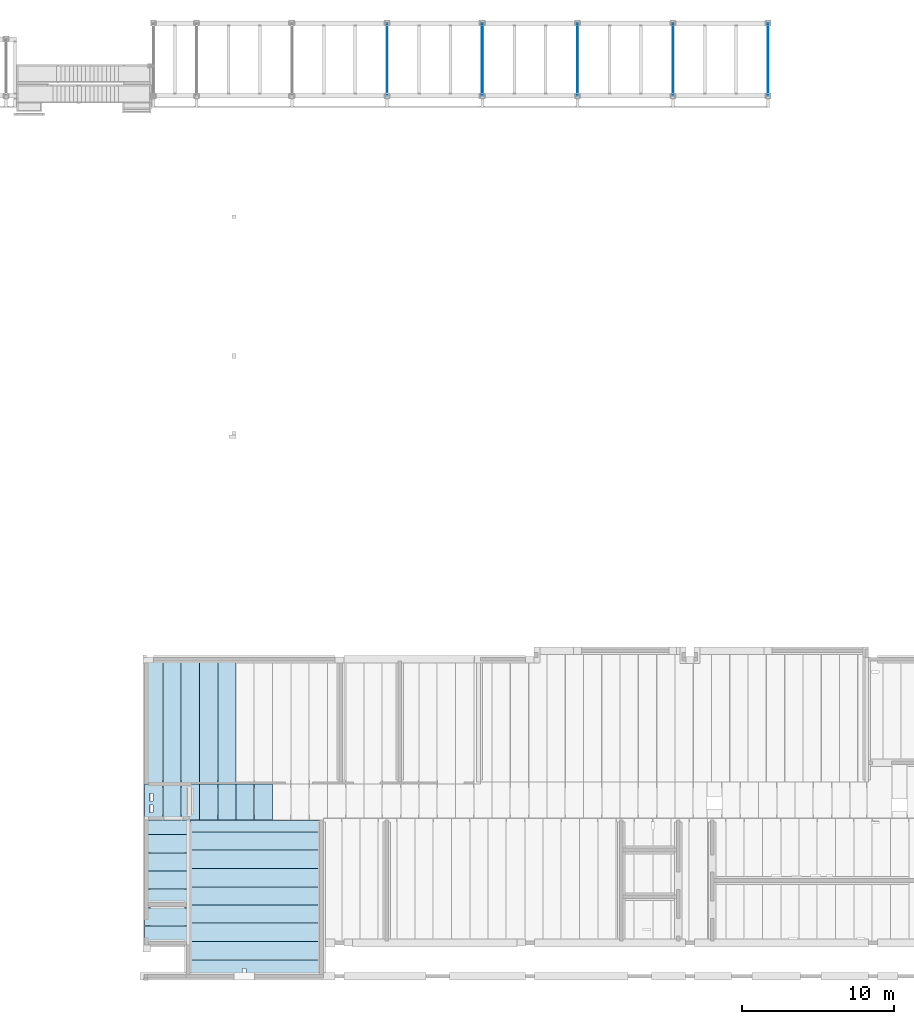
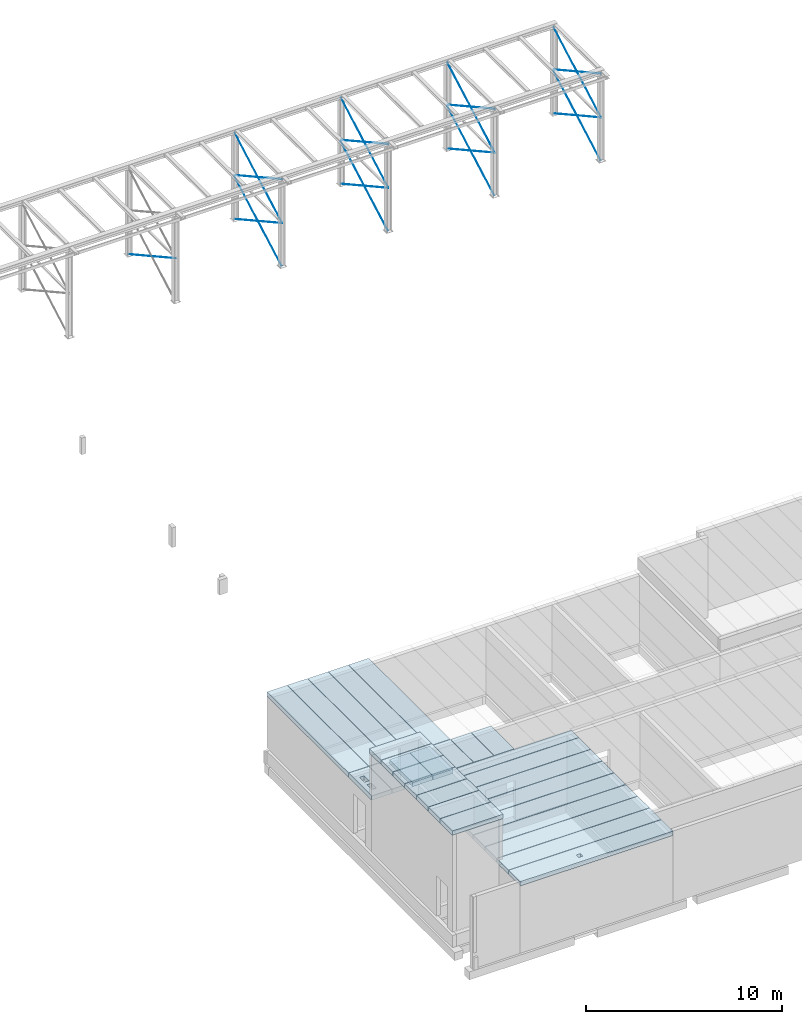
# One storey, part 8 of 24: 28 slabs, 17 members.
"""IFC2X3 building model written with IfcOpenShell, lengths in metres."""

from ifc_helpers import new_model, entity, si_unit, converted_unit, derived_unit, frame, frame_2d, origin, origin_with_axes, place, context, subcontext, project, spatial, polyline, rectangle, outline, extrude, faceted_brep, material, element, save


model = new_model("IFC2X3")

# Units and contexts
model_context = context("Model", 3, precision=1e-05, world=origin())
body_context = subcontext(model_context, "Body", "Model", "MODEL_VIEW")
ifc_project = project(units=[si_unit("LENGTHUNIT", "METRE"), si_unit("AREAUNIT", "SQUARE_METRE"), si_unit("VOLUMEUNIT", "CUBIC_METRE"), si_unit("MASSUNIT", "GRAM", prefix="KILO"), converted_unit("PLANEANGLEUNIT", "DEGREE", entity("IfcPlaneAngleMeasure", 0.0174532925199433), si_unit("PLANEANGLEUNIT", "RADIAN"), dimensions=[0, 0, 0, 0, 0, 0, 0]), derived_unit("THERMALTRANSMITTANCEUNIT", [(si_unit("POWERUNIT", "WATT"), 1), (si_unit("THERMODYNAMICTEMPERATUREUNIT", "KELVIN"), -1), (si_unit("LENGTHUNIT", "METRE"), -2)]), derived_unit("VOLUMETRICFLOWRATEUNIT", [(si_unit("LENGTHUNIT", "METRE"), 3), (converted_unit("TIMEUNIT", "hour", entity("IfcTimeMeasure", 3600.0), si_unit("TIMEUNIT", "SECOND"), dimensions=[0, 0, 1, 0, 0, 0, 0]), -1), (si_unit("LENGTHUNIT", "METRE"), -1)])], contexts=[model_context])

# Site, building, storey
site_placement = place(None, origin())
site = spatial("IfcSite", under=ifc_project, at=site_placement, Name="TWP_Speiseverteilzentrum SBW VZ II", CompositionType="ELEMENT")
building_placement = place(site_placement, origin())
building = spatial("IfcBuilding", under=site, at=building_placement, Name="Speiseverteilzentrum SBW VZ II", CompositionType="ELEMENT")
storey_placement = place(building_placement, frame((0.0, 0.0, 0.6957)))
storey = spatial("IfcBuildingStorey", under=building, at=storey_placement, Name="EG_Technik_FFB", CompositionType="ELEMENT", Elevation=0.6957)

# Members
ifc_material_1 = material(Name="S235")
member_1_placement = place(storey_placement, frame((109.98307179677, 87.4765115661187, 3.38623838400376)))
element("IfcMember", 1, at=member_1_placement, inside=storey, material=ifc_material_1, Name="Zugdiagonale", ObjectType="BRACE", context=body_context, shape_type="Brep", body=[
    faceted_brep([(0.0149282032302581, 4.76923843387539, 2.64376161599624), (0.00127134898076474, 4.76649999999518, 2.64871146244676), (0.0, 4.76730206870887, 2.64726168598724), (0.00292820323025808, 4.77259231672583, 2.63769931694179), (0.00485765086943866, 4.77297920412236, 2.637), (0.0149282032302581, 0.00273843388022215, 0.00676161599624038), (0.00485765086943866, 0.00647920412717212, 0.0), (0.00292820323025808, 0.00609231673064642, 0.000699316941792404), (0.0, 0.000802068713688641, 0.0102616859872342), (0.00127134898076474, 0.0, 0.011711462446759)], [[[0, 1, 2, 3, 4]], [[5, 6, 7, 8, 9]], [[5, 0, 4, 6]], [[6, 4, 3, 7]], [[7, 3, 2, 8]], [[8, 2, 1, 9]], [[9, 1, 0, 5]]], orient=[[False], [False], [False], [False], [False], [False], [False]]),
])
ifc_material_2 = material(Name="S235")
member_2_placement = place(storey_placement, frame((109.98307179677, 87.4765115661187, 0.658238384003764)))
element("IfcMember", 2, at=member_2_placement, inside=storey, material=ifc_material_2, Name="Zugdiagonale", ObjectType="BRACE", context=body_context, shape_type="Brep", body=[
    faceted_brep([(0.0149282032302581, 4.76923843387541, 2.64376161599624), (0.00127134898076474, 4.76649999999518, 2.64871146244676), (0.0, 4.76730206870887, 2.64726168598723), (0.00292820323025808, 4.77259231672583, 2.63769931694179), (0.00485765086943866, 4.77297920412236, 2.637), (0.0149282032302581, 0.00273843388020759, 0.00676161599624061), (0.00485765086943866, 0.00647920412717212, 0.0), (0.00292820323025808, 0.00609231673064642, 0.000699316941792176), (0.0, 0.000802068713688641, 0.0102616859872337), (0.00127134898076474, 0.0, 0.0117114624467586)], [[[0, 1, 2, 3, 4]], [[5, 6, 7, 8, 9]], [[5, 0, 4, 6]], [[6, 4, 3, 7]], [[7, 3, 2, 8]], [[8, 2, 1, 9]], [[9, 1, 0, 5]]], orient=[[False], [False], [False], [False], [False], [False], [False]]),
])
ifc_material_3 = material(Name="S235")
member_3_placement = place(storey_placement, frame((110.002, 87.4755092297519, 3.38623838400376)))
element("IfcMember", 3, at=member_3_placement, inside=storey, material=ifc_material_3, Name="Zugdiagonale", ObjectType="BRACE", context=body_context, shape_type="Brep", body=[
    faceted_brep([(0.0, 0.00374077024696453, 2.64376161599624), (0.0136568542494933, 0.00647920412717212, 2.64871146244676), (0.0149282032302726, 0.00567713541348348, 2.64726168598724), (0.012, 0.000386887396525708, 2.63769931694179), (0.0100705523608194, 0.0, 2.637), (0.0, 4.77024077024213, 0.00676161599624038), (0.0100705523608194, 4.76649999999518, 0.0), (0.012, 4.76688688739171, 0.000699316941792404), (0.0149282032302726, 4.77217713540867, 0.0102616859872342), (0.0136568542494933, 4.77297920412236, 0.011711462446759)], [[[0, 1, 2, 3, 4]], [[5, 6, 7, 8, 9]], [[5, 0, 4, 6]], [[6, 4, 3, 7]], [[7, 3, 2, 8]], [[8, 2, 1, 9]], [[9, 1, 0, 5]]], orient=[[False], [False], [False], [False], [False], [False], [False]]),
])
ifc_material_4 = material(Name="S235")
member_4_placement = place(storey_placement, frame((110.002, 87.4755092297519, 0.658238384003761)))
element("IfcMember", 4, at=member_4_placement, inside=storey, material=ifc_material_4, Name="Zugdiagonale", ObjectType="BRACE", context=body_context, shape_type="Brep", body=[
    faceted_brep([(0.0, 0.00374077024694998, 2.64376161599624), (0.0136568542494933, 0.00647920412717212, 2.64871146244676), (0.0149282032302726, 0.00567713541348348, 2.64726168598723), (0.012, 0.000386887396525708, 2.63769931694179), (0.0100705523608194, 0.0, 2.637), (0.0, 4.77024077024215, 0.00676161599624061), (0.0100705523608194, 4.76649999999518, 0.0), (0.012, 4.76688688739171, 0.000699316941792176), (0.0149282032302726, 4.77217713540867, 0.0102616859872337), (0.0136568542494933, 4.77297920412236, 0.0117114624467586)], [[[0, 1, 2, 3, 4]], [[5, 6, 7, 8, 9]], [[5, 0, 4, 6]], [[6, 4, 3, 7]], [[7, 3, 2, 8]], [[8, 2, 1, 9]], [[9, 1, 0, 5]]], orient=[[False], [False], [False], [False], [False], [False], [False]]),
])
ifc_material_5 = material(Name="S235")
member_5_placement = place(storey_placement, frame((103.73307179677, 87.4765115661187, 3.38623838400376)))
element("IfcMember", 5, at=member_5_placement, inside=storey, material=ifc_material_5, Name="Zugdiagonale", ObjectType="BRACE", context=body_context, shape_type="Brep", body=[
    faceted_brep([(0.0149282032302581, 4.76923843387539, 2.64376161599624), (0.00127134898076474, 4.76649999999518, 2.64871146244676), (0.0, 4.76730206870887, 2.64726168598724), (0.00292820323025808, 4.77259231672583, 2.63769931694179), (0.00485765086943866, 4.77297920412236, 2.637), (0.0149282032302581, 0.00273843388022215, 0.00676161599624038), (0.00485765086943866, 0.00647920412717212, 0.0), (0.00292820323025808, 0.00609231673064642, 0.000699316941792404), (0.0, 0.000802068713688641, 0.0102616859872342), (0.00127134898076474, 0.0, 0.011711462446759)], [[[0, 1, 2, 3, 4]], [[5, 6, 7, 8, 9]], [[5, 0, 4, 6]], [[6, 4, 3, 7]], [[7, 3, 2, 8]], [[8, 2, 1, 9]], [[9, 1, 0, 5]]], orient=[[False], [False], [False], [False], [False], [False], [False]]),
])
ifc_material_6 = material(Name="S235")
member_6_placement = place(storey_placement, frame((103.73307179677, 87.4765115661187, 0.658238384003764)))
element("IfcMember", 6, at=member_6_placement, inside=storey, material=ifc_material_6, Name="Zugdiagonale", ObjectType="BRACE", context=body_context, shape_type="Brep", body=[
    faceted_brep([(0.0149282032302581, 4.76923843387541, 2.64376161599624), (0.00127134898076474, 4.76649999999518, 2.64871146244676), (0.0, 4.76730206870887, 2.64726168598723), (0.00292820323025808, 4.77259231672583, 2.63769931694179), (0.00485765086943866, 4.77297920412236, 2.637), (0.0149282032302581, 0.00273843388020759, 0.00676161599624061), (0.00485765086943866, 0.00647920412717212, 0.0), (0.00292820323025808, 0.00609231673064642, 0.000699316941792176), (0.0, 0.000802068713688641, 0.0102616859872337), (0.00127134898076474, 0.0, 0.0117114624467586)], [[[0, 1, 2, 3, 4]], [[5, 6, 7, 8, 9]], [[5, 0, 4, 6]], [[6, 4, 3, 7]], [[7, 3, 2, 8]], [[8, 2, 1, 9]], [[9, 1, 0, 5]]], orient=[[False], [False], [False], [False], [False], [False], [False]]),
])
ifc_material_7 = material(Name="S235")
member_7_placement = place(storey_placement, frame((103.752, 87.4755092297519, 3.38623838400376)))
element("IfcMember", 7, at=member_7_placement, inside=storey, material=ifc_material_7, Name="Zugdiagonale", ObjectType="BRACE", context=body_context, shape_type="Brep", body=[
    faceted_brep([(0.0, 0.00374077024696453, 2.64376161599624), (0.0136568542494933, 0.00647920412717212, 2.64871146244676), (0.0149282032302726, 0.00567713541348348, 2.64726168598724), (0.012, 0.000386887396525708, 2.63769931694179), (0.0100705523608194, 0.0, 2.637), (0.0, 4.77024077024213, 0.00676161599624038), (0.0100705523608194, 4.76649999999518, 0.0), (0.012, 4.76688688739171, 0.000699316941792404), (0.0149282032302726, 4.77217713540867, 0.0102616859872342), (0.0136568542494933, 4.77297920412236, 0.011711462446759)], [[[0, 1, 2, 3, 4]], [[5, 6, 7, 8, 9]], [[5, 0, 4, 6]], [[6, 4, 3, 7]], [[7, 3, 2, 8]], [[8, 2, 1, 9]], [[9, 1, 0, 5]]], orient=[[False], [False], [False], [False], [False], [False], [False]]),
])
ifc_material_8 = material(Name="S235")
member_8_placement = place(storey_placement, frame((103.752, 87.4755092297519, 0.658238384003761)))
element("IfcMember", 8, at=member_8_placement, inside=storey, material=ifc_material_8, Name="Zugdiagonale", ObjectType="BRACE", context=body_context, shape_type="Brep", body=[
    faceted_brep([(0.0, 0.00374077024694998, 2.64376161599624), (0.0136568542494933, 0.00647920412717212, 2.64871146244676), (0.0149282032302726, 0.00567713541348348, 2.64726168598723), (0.012, 0.000386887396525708, 2.63769931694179), (0.0100705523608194, 0.0, 2.637), (0.0, 4.77024077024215, 0.00676161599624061), (0.0100705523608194, 4.76649999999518, 0.0), (0.012, 4.76688688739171, 0.000699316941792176), (0.0149282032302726, 4.77217713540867, 0.0102616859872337), (0.0136568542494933, 4.77297920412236, 0.0117114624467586)], [[[0, 1, 2, 3, 4]], [[5, 6, 7, 8, 9]], [[5, 0, 4, 6]], [[6, 4, 3, 7]], [[7, 3, 2, 8]], [[8, 2, 1, 9]], [[9, 1, 0, 5]]], orient=[[False], [False], [False], [False], [False], [False], [False]]),
])
ifc_material_9 = material(Name="S235")
member_9_placement = place(storey_placement, frame((97.4798217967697, 87.4765115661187, 3.38623838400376)))
element("IfcMember", 9, at=member_9_placement, inside=storey, material=ifc_material_9, Name="Zugdiagonale", ObjectType="BRACE", context=body_context, shape_type="Brep", body=[
    faceted_brep([(0.0149282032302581, 4.76923843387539, 2.64376161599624), (0.00127134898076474, 4.76649999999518, 2.64871146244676), (0.0, 4.76730206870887, 2.64726168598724), (0.00292820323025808, 4.77259231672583, 2.63769931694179), (0.00485765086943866, 4.77297920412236, 2.637), (0.0149282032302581, 0.00273843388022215, 0.00676161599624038), (0.00485765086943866, 0.00647920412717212, 0.0), (0.00292820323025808, 0.00609231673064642, 0.000699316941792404), (0.0, 0.000802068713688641, 0.0102616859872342), (0.00127134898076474, 0.0, 0.011711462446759)], [[[0, 1, 2, 3, 4]], [[5, 6, 7, 8, 9]], [[5, 0, 4, 6]], [[6, 4, 3, 7]], [[7, 3, 2, 8]], [[8, 2, 1, 9]], [[9, 1, 0, 5]]], orient=[[False], [False], [False], [False], [False], [False], [False]]),
])
ifc_material_10 = material(Name="S235")
member_10_placement = place(storey_placement, frame((97.4798217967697, 87.4765115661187, 0.658238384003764)))
element("IfcMember", 10, at=member_10_placement, inside=storey, material=ifc_material_10, Name="Zugdiagonale", ObjectType="BRACE", context=body_context, shape_type="Brep", body=[
    faceted_brep([(0.0149282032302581, 4.76923843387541, 2.64376161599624), (0.00127134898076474, 4.76649999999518, 2.64871146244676), (0.0, 4.76730206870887, 2.64726168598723), (0.00292820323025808, 4.77259231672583, 2.63769931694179), (0.00485765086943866, 4.77297920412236, 2.637), (0.0149282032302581, 0.00273843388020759, 0.00676161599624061), (0.00485765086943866, 0.00647920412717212, 0.0), (0.00292820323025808, 0.00609231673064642, 0.000699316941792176), (0.0, 0.000802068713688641, 0.0102616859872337), (0.00127134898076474, 0.0, 0.0117114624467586)], [[[0, 1, 2, 3, 4]], [[5, 6, 7, 8, 9]], [[5, 0, 4, 6]], [[6, 4, 3, 7]], [[7, 3, 2, 8]], [[8, 2, 1, 9]], [[9, 1, 0, 5]]], orient=[[False], [False], [False], [False], [False], [False], [False]]),
])
ifc_material_11 = material(Name="S235")
member_11_placement = place(storey_placement, frame((97.49875, 87.4755092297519, 3.38623838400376)))
element("IfcMember", 11, at=member_11_placement, inside=storey, material=ifc_material_11, Name="Zugdiagonale", ObjectType="BRACE", context=body_context, shape_type="Brep", body=[
    faceted_brep([(0.0, 0.00374077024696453, 2.64376161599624), (0.0136568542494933, 0.00647920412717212, 2.64871146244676), (0.0149282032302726, 0.00567713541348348, 2.64726168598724), (0.012, 0.000386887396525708, 2.63769931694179), (0.0100705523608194, 0.0, 2.637), (0.0, 4.77024077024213, 0.00676161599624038), (0.0100705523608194, 4.76649999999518, 0.0), (0.012, 4.76688688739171, 0.000699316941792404), (0.0149282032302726, 4.77217713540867, 0.0102616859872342), (0.0136568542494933, 4.77297920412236, 0.011711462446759)], [[[0, 1, 2, 3, 4]], [[5, 6, 7, 8, 9]], [[5, 0, 4, 6]], [[6, 4, 3, 7]], [[7, 3, 2, 8]], [[8, 2, 1, 9]], [[9, 1, 0, 5]]], orient=[[False], [False], [False], [False], [False], [False], [False]]),
])
ifc_material_12 = material(Name="S235")
member_12_placement = place(storey_placement, frame((97.49875, 87.4755092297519, 0.658238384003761)))
element("IfcMember", 12, at=member_12_placement, inside=storey, material=ifc_material_12, Name="Zugdiagonale", ObjectType="BRACE", context=body_context, shape_type="Brep", body=[
    faceted_brep([(0.0, 0.00374077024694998, 2.64376161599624), (0.0136568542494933, 0.00647920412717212, 2.64871146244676), (0.0149282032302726, 0.00567713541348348, 2.64726168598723), (0.012, 0.000386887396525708, 2.63769931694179), (0.0100705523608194, 0.0, 2.637), (0.0, 4.77024077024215, 0.00676161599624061), (0.0100705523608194, 4.76649999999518, 0.0), (0.012, 4.76688688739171, 0.000699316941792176), (0.0149282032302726, 4.77217713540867, 0.0102616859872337), (0.0136568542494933, 4.77297920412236, 0.0117114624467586)], [[[0, 1, 2, 3, 4]], [[5, 6, 7, 8, 9]], [[5, 0, 4, 6]], [[6, 4, 3, 7]], [[7, 3, 2, 8]], [[8, 2, 1, 9]], [[9, 1, 0, 5]]], orient=[[False], [False], [False], [False], [False], [False], [False]]),
])
ifc_material_13 = material(Name="S235")
member_13_placement = place(storey_placement, frame((91.2298217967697, 87.4765115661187, 3.38623838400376)))
element("IfcMember", 13, at=member_13_placement, inside=storey, material=ifc_material_13, Name="Zugdiagonale", ObjectType="BRACE", context=body_context, shape_type="Brep", body=[
    faceted_brep([(0.0149282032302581, 4.76923843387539, 2.64376161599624), (0.00127134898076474, 4.76649999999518, 2.64871146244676), (0.0, 4.76730206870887, 2.64726168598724), (0.00292820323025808, 4.77259231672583, 2.63769931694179), (0.00485765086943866, 4.77297920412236, 2.637), (0.0149282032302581, 0.00273843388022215, 0.00676161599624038), (0.00485765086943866, 0.00647920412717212, 0.0), (0.00292820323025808, 0.00609231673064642, 0.000699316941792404), (0.0, 0.000802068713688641, 0.0102616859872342), (0.00127134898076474, 0.0, 0.011711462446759)], [[[0, 1, 2, 3, 4]], [[5, 6, 7, 8, 9]], [[5, 0, 4, 6]], [[6, 4, 3, 7]], [[7, 3, 2, 8]], [[8, 2, 1, 9]], [[9, 1, 0, 5]]], orient=[[False], [False], [False], [False], [False], [False], [False]]),
])
ifc_material_14 = material(Name="S235")
member_14_placement = place(storey_placement, frame((91.2298217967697, 87.4765115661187, 0.658238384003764)))
element("IfcMember", 14, at=member_14_placement, inside=storey, material=ifc_material_14, Name="Zugdiagonale", ObjectType="BRACE", context=body_context, shape_type="Brep", body=[
    faceted_brep([(0.0149282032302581, 4.76923843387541, 2.64376161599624), (0.00127134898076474, 4.76649999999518, 2.64871146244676), (0.0, 4.76730206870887, 2.64726168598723), (0.00292820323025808, 4.77259231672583, 2.63769931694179), (0.00485765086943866, 4.77297920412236, 2.637), (0.0149282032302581, 0.00273843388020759, 0.00676161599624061), (0.00485765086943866, 0.00647920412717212, 0.0), (0.00292820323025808, 0.00609231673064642, 0.000699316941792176), (0.0, 0.000802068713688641, 0.0102616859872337), (0.00127134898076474, 0.0, 0.0117114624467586)], [[[0, 1, 2, 3, 4]], [[5, 6, 7, 8, 9]], [[5, 0, 4, 6]], [[6, 4, 3, 7]], [[7, 3, 2, 8]], [[8, 2, 1, 9]], [[9, 1, 0, 5]]], orient=[[False], [False], [False], [False], [False], [False], [False]]),
])
ifc_material_15 = material(Name="S235")
member_15_placement = place(storey_placement, frame((91.24875, 87.4755092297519, 3.38623838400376)))
element("IfcMember", 15, at=member_15_placement, inside=storey, material=ifc_material_15, Name="Zugdiagonale", ObjectType="BRACE", context=body_context, shape_type="Brep", body=[
    faceted_brep([(0.0, 0.00374077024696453, 2.64376161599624), (0.0136568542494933, 0.00647920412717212, 2.64871146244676), (0.0149282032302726, 0.00567713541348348, 2.64726168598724), (0.012, 0.000386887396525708, 2.63769931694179), (0.0100705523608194, 0.0, 2.637), (0.0, 4.77024077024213, 0.00676161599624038), (0.0100705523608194, 4.76649999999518, 0.0), (0.012, 4.76688688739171, 0.000699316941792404), (0.0149282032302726, 4.77217713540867, 0.0102616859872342), (0.0136568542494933, 4.77297920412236, 0.011711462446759)], [[[0, 1, 2, 3, 4]], [[5, 6, 7, 8, 9]], [[5, 0, 4, 6]], [[6, 4, 3, 7]], [[7, 3, 2, 8]], [[8, 2, 1, 9]], [[9, 1, 0, 5]]], orient=[[False], [False], [False], [False], [False], [False], [False]]),
])
ifc_material_16 = material(Name="S235")
member_16_placement = place(storey_placement, frame((91.24875, 87.4755092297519, 0.658238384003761)))
element("IfcMember", 16, at=member_16_placement, inside=storey, material=ifc_material_16, Name="Zugdiagonale", ObjectType="BRACE", context=body_context, shape_type="Brep", body=[
    faceted_brep([(0.0, 0.00374077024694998, 2.64376161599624), (0.0136568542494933, 0.00647920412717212, 2.64871146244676), (0.0149282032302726, 0.00567713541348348, 2.64726168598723), (0.012, 0.000386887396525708, 2.63769931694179), (0.0100705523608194, 0.0, 2.637), (0.0, 4.77024077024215, 0.00676161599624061), (0.0100705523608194, 4.76649999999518, 0.0), (0.012, 4.76688688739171, 0.000699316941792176), (0.0149282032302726, 4.77217713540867, 0.0102616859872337), (0.0136568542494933, 4.77297920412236, 0.0117114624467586)], [[[0, 1, 2, 3, 4]], [[5, 6, 7, 8, 9]], [[5, 0, 4, 6]], [[6, 4, 3, 7]], [[7, 3, 2, 8]], [[8, 2, 1, 9]], [[9, 1, 0, 5]]], orient=[[False], [False], [False], [False], [False], [False], [False]]),
])
ifc_material_17 = material(Name="S235")
member_17_placement = place(storey_placement, frame((85.00525, 87.4755092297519, 0.658238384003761)))
element("IfcMember", 17, at=member_17_placement, inside=storey, material=ifc_material_17, Name="Zugdiagonale", ObjectType="BRACE", context=body_context, shape_type="Brep", body=[
    faceted_brep([(0.0, 0.00374077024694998, 2.64376161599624), (0.0136568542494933, 0.00647920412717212, 2.64871146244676), (0.0149282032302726, 0.00567713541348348, 2.64726168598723), (0.012, 0.000386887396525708, 2.63769931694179), (0.0100705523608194, 0.0, 2.637), (0.0, 4.77024077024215, 0.00676161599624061), (0.0100705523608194, 4.76649999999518, 0.0), (0.012, 4.76688688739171, 0.000699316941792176), (0.0149282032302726, 4.77217713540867, 0.0102616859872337), (0.0136568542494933, 4.77297920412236, 0.0117114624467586)], [[[0, 1, 2, 3, 4]], [[5, 6, 7, 8, 9]], [[5, 0, 4, 6]], [[6, 4, 3, 7]], [[7, 3, 2, 8]], [[8, 2, 1, 9]], [[9, 1, 0, 5]]], orient=[[False], [False], [False], [False], [False], [False], [False]]),
])

# Slabs
ifc_material_18 = material(Name="Stahlbetonfertigteil")
slab_1_placement = place(storey_placement, frame((69.1000000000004, 37.8199999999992, 6.8)))
element("IfcSlab", 18, at=slab_1_placement, inside=storey, material=ifc_material_18, Name="Spannbetonhohldecke", PredefinedType="FLOOR", context=body_context, shape_type="SweptSolid", body=[
    extrude(rectangle(XDim=2.97999999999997, YDim=1.18, at=frame_2d((1.48999999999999, 0.59), x_axis=(1.0, 0.0))), origin_with_axes(), (0.0, 0.0, 1.0), 0.265),
])
ifc_material_19 = material(Name="Stahlbetonfertigteil")
slab_2_placement = place(storey_placement, frame((69.1000000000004, 34.2199999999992, 6.8)))
element("IfcSlab", 19, at=slab_2_placement, inside=storey, material=ifc_material_19, Name="Spannbetonhohldecke", PredefinedType="FLOOR", context=body_context, shape_type="SweptSolid", body=[
    extrude(rectangle(XDim=2.97999999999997, YDim=1.18, at=frame_2d((1.48999999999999, 0.59), x_axis=(1.0, 0.0))), origin_with_axes(), (0.0, 0.0, 1.0), 0.265),
])
ifc_material_20 = material(Name="Stahlbetonfertigteil")
slab_3_placement = place(storey_placement, frame((69.1000000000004, 33.0199999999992, 6.8)))
element("IfcSlab", 20, at=slab_3_placement, inside=storey, material=ifc_material_20, Name="Spannbetonhohldecke", PredefinedType="FLOOR", context=body_context, shape_type="SweptSolid", body=[
    extrude(rectangle(XDim=2.97999999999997, YDim=1.18, at=frame_2d((1.48999999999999, 0.59), x_axis=(1.0, 0.0))), origin_with_axes(), (0.0, 0.0, 1.0), 0.265),
])
ifc_material_21 = material(Name="Stahlbetonfertigteil")
slab_4_placement = place(storey_placement, frame((69.1000000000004, 31.7522526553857, 6.8)))
element("IfcSlab", 21, at=slab_4_placement, inside=storey, material=ifc_material_21, Name="Spannbetonhohldecke", PredefinedType="FLOOR", context=body_context, shape_type="SweptSolid", body=[
    extrude(rectangle(XDim=2.97999999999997, YDim=1.24774734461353, at=frame_2d((1.48999999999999, 0.623873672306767), x_axis=(1.0, 0.0))), origin_with_axes(), (0.0, 0.0, 1.0), 0.265),
])
ifc_material_22 = material(Name="Stahlbetonfertigteil")
slab_5_placement = place(storey_placement, frame((69.1000000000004, 39.0199999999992, 6.8)))
element("IfcSlab", 22, at=slab_5_placement, inside=storey, material=ifc_material_22, Name="Spannbetonhohldecke", PredefinedType="FLOOR", context=body_context, shape_type="SweptSolid", body=[
    extrude(rectangle(XDim=2.97999999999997, YDim=1.18, at=frame_2d((1.48999999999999, 0.59), x_axis=(1.0, 0.0))), origin_with_axes(), (0.0, 0.0, 1.0), 0.265),
])
ifc_material_23 = material(Name="Stahlbetonfertigteil")
slab_6_placement = place(storey_placement, frame((69.1000000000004, 35.4199999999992, 6.8)))
element("IfcSlab", 23, at=slab_6_placement, inside=storey, material=ifc_material_23, Name="Spannbetonhohldecke", PredefinedType="FLOOR", context=body_context, shape_type="SweptSolid", body=[
    extrude(rectangle(XDim=2.97999999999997, YDim=1.18, at=frame_2d((1.48999999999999, 0.59), x_axis=(1.0, 0.0))), origin_with_axes(), (0.0, 0.0, 1.0), 0.265),
])
ifc_material_24 = material(Name="Stahlbetonfertigteil")
slab_7_placement = place(storey_placement, frame((69.1000000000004, 36.6199999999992, 6.8)))
element("IfcSlab", 24, at=slab_7_placement, inside=storey, material=ifc_material_24, Name="Spannbetonhohldecke", PredefinedType="FLOOR", context=body_context, shape_type="SweptSolid", body=[
    extrude(rectangle(XDim=2.97999999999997, YDim=1.18, at=frame_2d((1.48999999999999, 0.59), x_axis=(1.0, 0.0))), origin_with_axes(), (0.0, 0.0, 1.0), 0.265),
])
ifc_material_25 = material(Name="Stahlbetonfertigteil")
slab_8_placement = place(storey_placement, frame((70.3000000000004, 42.3299999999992, 4.0)))
element("IfcSlab", 25, at=slab_8_placement, inside=storey, material=ifc_material_25, Name="Spannbetonhohldecke", PredefinedType="FLOOR", context=body_context, shape_type="SweptSolid", body=[
    extrude(rectangle(XDim=8.30000000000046, YDim=1.18, at=frame_2d((0.59, -4.15000000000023), x_axis=(0.0, -1.0))), frame((0.0, 8.30000000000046, 0.0), z_axis=(0.0, 0.0, 1.0), x_axis=(1.0, 0.0, 0.0)), (0.0, 0.0, 1.0), 0.265),
])
ifc_material_26 = material(Name="Stahlbetonfertigteil")
slab_9_placement = place(storey_placement, frame((71.5000000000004, 39.9599999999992, 4.0)))
element("IfcSlab", 26, at=slab_9_placement, inside=storey, material=ifc_material_26, Name="Spannbetonhohldecke", PredefinedType="FLOOR", context=body_context, shape_type="SweptSolid", body=[
    extrude(rectangle(XDim=2.35, YDim=1.18, at=frame_2d((0.59, -1.175), x_axis=(0.0, -1.0))), frame((0.0, 2.35, 0.0), z_axis=(0.0, 0.0, 1.0), x_axis=(1.0, 0.0, 0.0)), (0.0, 0.0, 1.0), 0.265),
])
ifc_material_27 = material(Name="Stahlbetonfertigteil")
slab_10_placement = place(storey_placement, frame((71.8400000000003, 31.9899999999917, 4.0)))
element("IfcSlab", 27, at=slab_10_placement, inside=storey, material=ifc_material_27, Name="Spannbetonhohldecke", PredefinedType="FLOOR", context=body_context, shape_type="SweptSolid", body=[
    extrude(rectangle(XDim=8.98, YDim=1.18, at=frame_2d((-4.49, -0.59), x_axis=(-1.0, 0.0))), frame((8.98, 1.18, 0.0), z_axis=(0.0, 0.0, 1.0), x_axis=(1.0, 0.0, 0.0)), (0.0, 0.0, 1.0), 0.265),
])
ifc_material_28 = material(Name="Stahlbetonfertigteil")
slab_11_placement = place(storey_placement, frame((71.8400000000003, 34.3899999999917, 4.0)))
element("IfcSlab", 28, at=slab_11_placement, inside=storey, material=ifc_material_28, Name="Spannbetonhohldecke", PredefinedType="FLOOR", context=body_context, shape_type="SweptSolid", body=[
    extrude(rectangle(XDim=8.98, YDim=1.18, at=frame_2d((-4.49, -0.59), x_axis=(-1.0, 0.0))), frame((8.98, 1.18, 0.0), z_axis=(0.0, 0.0, 1.0), x_axis=(1.0, 0.0, 0.0)), (0.0, 0.0, 1.0), 0.265),
])
ifc_material_29 = material(Name="Stahlbetonfertigteil")
slab_12_placement = place(storey_placement, frame((71.8400000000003, 36.7899999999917, 4.0)))
element("IfcSlab", 29, at=slab_12_placement, inside=storey, material=ifc_material_29, Name="Spannbetonhohldecke", PredefinedType="FLOOR", context=body_context, shape_type="SweptSolid", body=[
    extrude(rectangle(XDim=8.98, YDim=1.18, at=frame_2d((-4.49, -0.59), x_axis=(-1.0, 0.0))), frame((8.98, 1.18, 0.0), z_axis=(0.0, 0.0, 1.0), x_axis=(1.0, 0.0, 0.0)), (0.0, 0.0, 1.0), 0.265),
])
ifc_material_30 = material(Name="Stahlbetonfertigteil")
slab_13_placement = place(storey_placement, frame((71.8400000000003, 39.1899999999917, 4.0)))
element("IfcSlab", 30, at=slab_13_placement, inside=storey, material=ifc_material_30, Name="Spannbetonhohldecke", PredefinedType="FLOOR", context=body_context, shape_type="SweptSolid", body=[
    extrude(rectangle(XDim=8.98, YDim=0.75000000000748, at=frame_2d((-4.49, -0.37500000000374), x_axis=(-1.0, 0.0))), frame((8.98, 0.75000000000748, 0.0), z_axis=(0.0, 0.0, 1.0), x_axis=(1.0, 0.0, 0.0)), (0.0, 0.0, 1.0), 0.265),
])
ifc_material_31 = material(Name="Stahlbetonfertigteil")
slab_14_placement = place(storey_placement, frame((72.7000000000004, 42.3299999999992, 4.0)))
element("IfcSlab", 31, at=slab_14_placement, inside=storey, material=ifc_material_31, Name="Spannbetonhohldecke", PredefinedType="FLOOR", context=body_context, shape_type="SweptSolid", body=[
    extrude(rectangle(XDim=8.30000000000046, YDim=1.18, at=frame_2d((0.59, -4.15000000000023), x_axis=(0.0, -1.0))), frame((0.0, 8.30000000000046, 0.0), z_axis=(0.0, 0.0, 1.0), x_axis=(1.0, 0.0, 0.0)), (0.0, 0.0, 1.0), 0.265),
])
ifc_material_32 = material(Name="Stahlbetonfertigteil")
slab_15_placement = place(storey_placement, frame((70.3000000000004, 39.9599999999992, 4.0)))
element("IfcSlab", 32, at=slab_15_placement, inside=storey, material=ifc_material_32, Name="Spannbetonhohldecke", PredefinedType="FLOOR", context=body_context, shape_type="SweptSolid", body=[
    extrude(rectangle(XDim=2.35, YDim=1.18, at=frame_2d((0.59, -1.175), x_axis=(0.0, -1.0))), frame((0.0, 2.35, 0.0), z_axis=(0.0, 0.0, 1.0), x_axis=(1.0, 0.0, 0.0)), (0.0, 0.0, 1.0), 0.265),
])
ifc_material_33 = material(Name="Stahlbetonfertigteil")
slab_16_placement = place(storey_placement, frame((72.7000000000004, 39.9599999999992, 4.0)))
element("IfcSlab", 33, at=slab_16_placement, inside=storey, material=ifc_material_33, Name="Spannbetonhohldecke", PredefinedType="FLOOR", context=body_context, shape_type="SweptSolid", body=[
    extrude(rectangle(XDim=2.35, YDim=1.18, at=frame_2d((0.59, -1.175), x_axis=(0.0, -1.0))), frame((0.0, 2.35, 0.0), z_axis=(0.0, 0.0, 1.0), x_axis=(1.0, 0.0, 0.0)), (0.0, 0.0, 1.0), 0.265),
])
ifc_material_34 = material(Name="Stahlbetonfertigteil")
slab_17_placement = place(storey_placement, frame((76.3000000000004, 39.9599999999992, 4.0)))
element("IfcSlab", 34, at=slab_17_placement, inside=storey, material=ifc_material_34, Name="Spannbetonhohldecke", PredefinedType="FLOOR", context=body_context, shape_type="SweptSolid", body=[
    extrude(rectangle(XDim=2.35, YDim=1.18, at=frame_2d((0.59, -1.175), x_axis=(0.0, -1.0))), frame((0.0, 2.35, 0.0), z_axis=(0.0, 0.0, 1.0), x_axis=(1.0, 0.0, 0.0)), (0.0, 0.0, 1.0), 0.265),
])
ifc_material_35 = material(Name="Stahlbetonfertigteil")
slab_18_placement = place(storey_placement, frame((71.8400000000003, 35.5899999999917, 4.0)))
element("IfcSlab", 35, at=slab_18_placement, inside=storey, material=ifc_material_35, Name="Spannbetonhohldecke", PredefinedType="FLOOR", context=body_context, shape_type="SweptSolid", body=[
    extrude(rectangle(XDim=8.98, YDim=1.18, at=frame_2d((-4.49, -0.59), x_axis=(-1.0, 0.0))), frame((8.98, 1.18, 0.0), z_axis=(0.0, 0.0, 1.0), x_axis=(1.0, 0.0, 0.0)), (0.0, 0.0, 1.0), 0.265),
])
ifc_material_36 = material(Name="Stahlbetonfertigteil")
slab_19_placement = place(storey_placement, frame((71.8400000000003, 30.7899999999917, 4.0)))
element("IfcSlab", 36, at=slab_19_placement, inside=storey, material=ifc_material_36, Name="Spannbetonhohldecke", PredefinedType="FLOOR", context=body_context, shape_type="SweptSolid", body=[
    extrude(rectangle(XDim=8.98, YDim=1.18, at=frame_2d((-4.49, -0.59), x_axis=(-1.0, 0.0))), frame((8.98, 1.18, 0.0), z_axis=(0.0, 0.0, 1.0), x_axis=(1.0, 0.0, 0.0)), (0.0, 0.0, 1.0), 0.265),
])
ifc_material_37 = material(Name="Stahlbetonfertigteil")
slab_20_placement = place(storey_placement, frame((71.8400000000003, 29.5899999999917, 4.0)))
element("IfcSlab", 37, at=slab_20_placement, inside=storey, material=ifc_material_37, Name="Spannbetonhohldecke", PredefinedType="FLOOR", context=body_context, shape_type="SweptSolid", body=[
    extrude(outline(polyline([(8.98, 1.18), (0.0, 1.18), (0.0, 0.0), (8.98, 0.0), (8.98, 1.18)]), holes=[polyline([(3.66499999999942, 0.62725265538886), (3.90499999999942, 0.62725265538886), (3.90499999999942, 0.370000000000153), (3.66499999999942, 0.370000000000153), (3.66499999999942, 0.62725265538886)])]), origin_with_axes(), (0.0, 0.0, 1.0), 0.265),
])
ifc_material_38 = material(Name="Stahlbetonfertigteil")
slab_21_placement = place(storey_placement, frame((69.1000000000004, 42.3299999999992, 4.0)))
element("IfcSlab", 38, at=slab_21_placement, inside=storey, material=ifc_material_38, Name="Spannbetonhohldecke", PredefinedType="FLOOR", context=body_context, shape_type="SweptSolid", body=[
    extrude(rectangle(XDim=8.30000000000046, YDim=1.18, at=frame_2d((0.59, -4.15000000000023), x_axis=(0.0, -1.0))), frame((0.0, 8.30000000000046, 0.0), z_axis=(0.0, 0.0, 1.0), x_axis=(1.0, 0.0, 0.0)), (0.0, 0.0, 1.0), 0.265),
])
ifc_material_39 = material(Name="Stahlbetonfertigteil")
slab_22_placement = place(storey_placement, frame((73.9000000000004, 42.3299999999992, 4.0)))
element("IfcSlab", 39, at=slab_22_placement, inside=storey, material=ifc_material_39, Name="Spannbetonhohldecke", PredefinedType="FLOOR", context=body_context, shape_type="SweptSolid", body=[
    extrude(rectangle(XDim=8.30000000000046, YDim=1.18, at=frame_2d((0.59, -4.15000000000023), x_axis=(0.0, -1.0))), frame((0.0, 8.30000000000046, 0.0), z_axis=(0.0, 0.0, 1.0), x_axis=(1.0, 0.0, 0.0)), (0.0, 0.0, 1.0), 0.265),
])
ifc_material_40 = material(Name="Stahlbetonfertigteil")
slab_23_placement = place(storey_placement, frame((69.1000000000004, 39.9599999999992, 4.0)))
element("IfcSlab", 40, at=slab_23_placement, inside=storey, material=ifc_material_40, Name="Spannbetonhohldecke", PredefinedType="FLOOR", context=body_context, shape_type="SweptSolid", body=[
    extrude(outline(polyline([(0.0, 2.35), (0.0, 0.0), (1.18, 0.0), (1.18, 2.35), (0.0, 2.35)]), holes=[polyline([(0.549999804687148, 1.73999886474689), (0.549999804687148, 1.23999682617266), (0.300001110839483, 1.23999682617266), (0.300001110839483, 1.73999886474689), (0.549999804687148, 1.73999886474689)]), polyline([(0.300001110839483, 0.98999813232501), (0.549999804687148, 0.98999813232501), (0.549999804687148, 0.490000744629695), (0.300001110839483, 0.490000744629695), (0.300001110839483, 0.98999813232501)])]), origin_with_axes(), (0.0, 0.0, 1.0), 0.265),
])
ifc_material_41 = material(Name="Stahlbetonfertigteil")
slab_24_placement = place(storey_placement, frame((73.9000000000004, 39.9599999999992, 4.0)))
element("IfcSlab", 41, at=slab_24_placement, inside=storey, material=ifc_material_41, Name="Spannbetonhohldecke", PredefinedType="FLOOR", context=body_context, shape_type="SweptSolid", body=[
    extrude(rectangle(XDim=2.35, YDim=1.18, at=frame_2d((0.59, -1.175), x_axis=(0.0, -1.0))), frame((0.0, 2.35, 0.0), z_axis=(0.0, 0.0, 1.0), x_axis=(1.0, 0.0, 0.0)), (0.0, 0.0, 1.0), 0.265),
])
ifc_material_42 = material(Name="Stahlbetonfertigteil")
slab_25_placement = place(storey_placement, frame((71.8400000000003, 37.9899999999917, 4.0)))
element("IfcSlab", 42, at=slab_25_placement, inside=storey, material=ifc_material_42, Name="Spannbetonhohldecke", PredefinedType="FLOOR", context=body_context, shape_type="SweptSolid", body=[
    extrude(rectangle(XDim=8.98, YDim=1.18, at=frame_2d((-4.49, -0.59), x_axis=(-1.0, 0.0))), frame((8.98, 1.18, 0.0), z_axis=(0.0, 0.0, 1.0), x_axis=(1.0, 0.0, 0.0)), (0.0, 0.0, 1.0), 0.265),
])
ifc_material_43 = material(Name="Stahlbetonfertigteil")
slab_26_placement = place(storey_placement, frame((71.5000000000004, 42.3299999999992, 4.0)))
element("IfcSlab", 43, at=slab_26_placement, inside=storey, material=ifc_material_43, Name="Spannbetonhohldecke", PredefinedType="FLOOR", context=body_context, shape_type="SweptSolid", body=[
    extrude(rectangle(XDim=8.30000000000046, YDim=1.18, at=frame_2d((0.59, -4.15000000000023), x_axis=(0.0, -1.0))), frame((0.0, 8.30000000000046, 0.0), z_axis=(0.0, 0.0, 1.0), x_axis=(1.0, 0.0, 0.0)), (0.0, 0.0, 1.0), 0.265),
])
ifc_material_44 = material(Name="Stahlbetonfertigteil")
slab_27_placement = place(storey_placement, frame((75.1000000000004, 39.9599999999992, 4.0)))
element("IfcSlab", 44, at=slab_27_placement, inside=storey, material=ifc_material_44, Name="Spannbetonhohldecke", PredefinedType="FLOOR", context=body_context, shape_type="SweptSolid", body=[
    extrude(rectangle(XDim=2.35, YDim=1.18, at=frame_2d((0.59, -1.175), x_axis=(0.0, -1.0))), frame((0.0, 2.35, 0.0), z_axis=(0.0, 0.0, 1.0), x_axis=(1.0, 0.0, 0.0)), (0.0, 0.0, 1.0), 0.265),
])
ifc_material_45 = material(Name="Stahlbetonfertigteil")
slab_28_placement = place(storey_placement, frame((71.8400000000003, 33.1899999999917, 4.0)))
element("IfcSlab", 45, at=slab_28_placement, inside=storey, material=ifc_material_45, Name="Spannbetonhohldecke", PredefinedType="FLOOR", context=body_context, shape_type="SweptSolid", body=[
    extrude(rectangle(XDim=8.98, YDim=1.18, at=frame_2d((-4.49, -0.59), x_axis=(-1.0, 0.0))), frame((8.98, 1.18, 0.0), z_axis=(0.0, 0.0, 1.0), x_axis=(1.0, 0.0, 0.0)), (0.0, 0.0, 1.0), 0.265),
])

save(model, "model.ifc")
